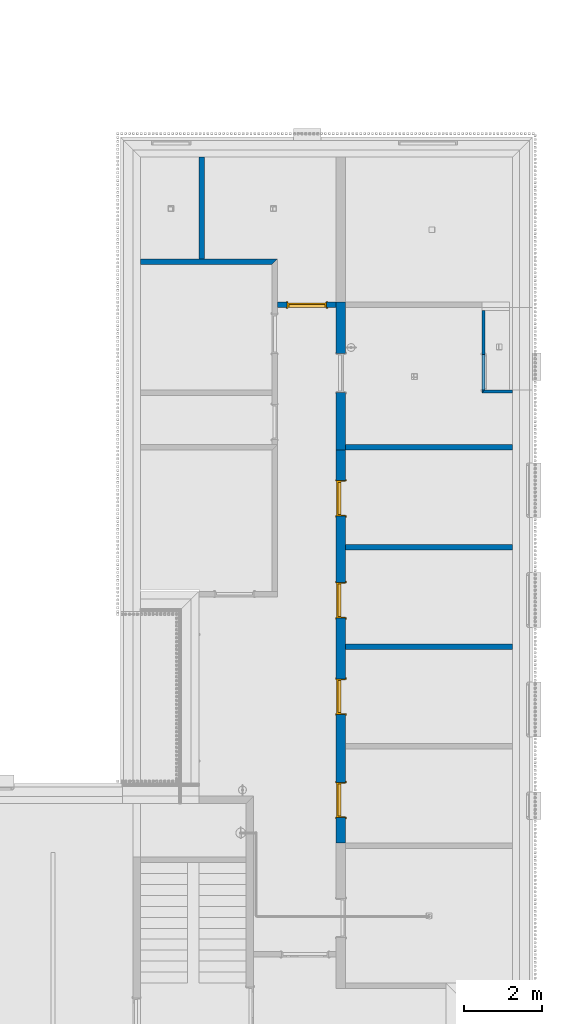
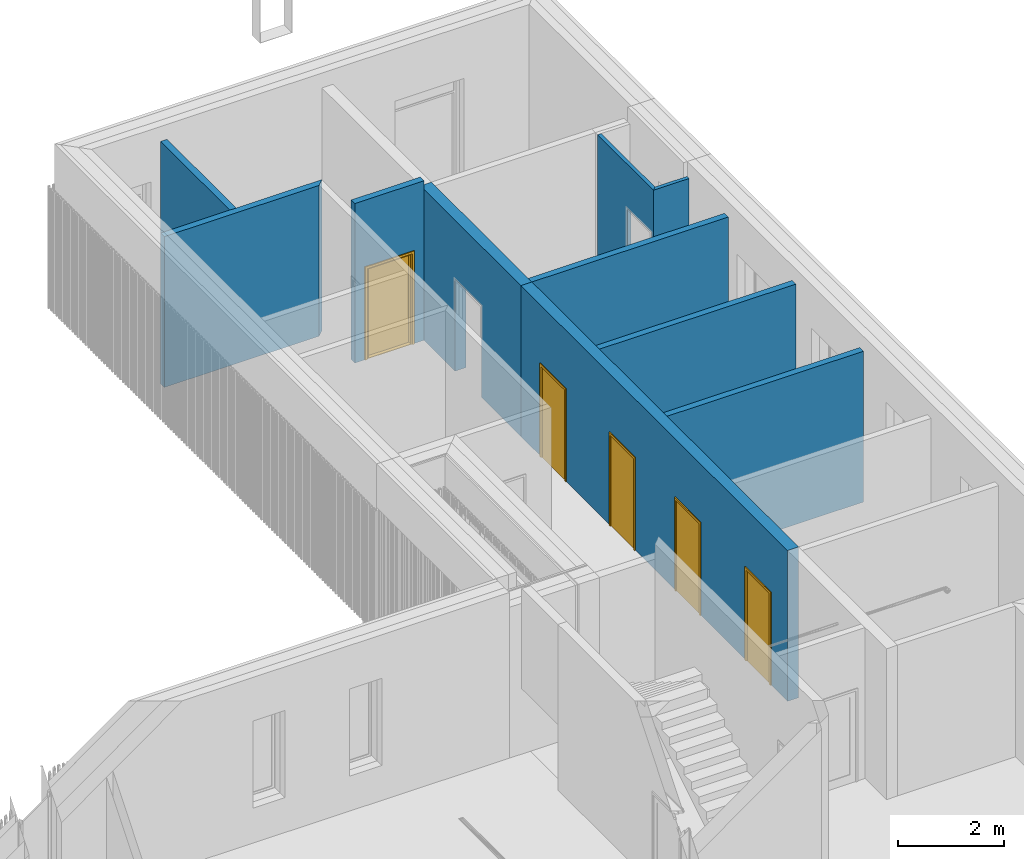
# One storey, part 17 of 112: 10 walls, 5 doors, 7 openings.
"""IFC2X3 building model written with IfcOpenShell, lengths in millimetres."""

from ifc_helpers import new_model, entity, si_unit, converted_unit, derived_unit, money_unit, direction, frame, origin_with_axes, origin_2d_with_axis, place, context, subcontext, project, spatial, polyline, rectangle, outline, extrude, faceted_brep, source, transform, mapped, material, layer, layer_set, layer_usage, type_object, element, fill, save


model = new_model("IFC2X3")

# Units and contexts
model_context = context("Model", 3, precision=0.01, world=origin_with_axes(), true_north=direction((0.0, 1.0)))
body_context = subcontext(model_context, "Body", "Model", "MODEL_VIEW")
ifc_project = project(units=[si_unit("LENGTHUNIT", "METRE", prefix="MILLI"), si_unit("AREAUNIT", "SQUARE_METRE"), si_unit("VOLUMEUNIT", "CUBIC_METRE"), converted_unit("PLANEANGLEUNIT", "DEGREE", entity("IfcPlaneAngleMeasure", 0.0174532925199), si_unit("PLANEANGLEUNIT", "RADIAN"), dimensions=[0, 0, 0, 0, 0, 0, 0]), si_unit("SOLIDANGLEUNIT", "STERADIAN"), money_unit("EUR"), converted_unit("TIMEUNIT", "Year", entity("IfcTimeMeasure", 31556926.0), si_unit("TIMEUNIT", "SECOND"), dimensions=[0, 0, 1, 0, 0, 0, 0]), si_unit("MASSUNIT", "GRAM", prefix="KILO"), si_unit("THERMODYNAMICTEMPERATUREUNIT", "DEGREE_CELSIUS"), si_unit("LUMINOUSINTENSITYUNIT", "LUMEN"), si_unit("ENERGYUNIT", "JOULE", prefix="MEGA"), derived_unit("THERMALCONDUCTANCEUNIT", [(si_unit("POWERUNIT", "WATT"), 1), (si_unit("LENGTHUNIT", "METRE"), -1), (si_unit("THERMODYNAMICTEMPERATUREUNIT", "KELVIN"), -1)]), derived_unit("SPECIFICHEATCAPACITYUNIT", [(si_unit("ENERGYUNIT", "JOULE"), 1), (si_unit("MASSUNIT", "GRAM", prefix="KILO"), -1), (si_unit("THERMODYNAMICTEMPERATUREUNIT", "KELVIN"), -1)]), derived_unit("MASSDENSITYUNIT", [(si_unit("MASSUNIT", "GRAM", prefix="KILO"), 1), (si_unit("VOLUMEUNIT", "CUBIC_METRE"), -1)])], contexts=[model_context])

# Site, building, storey
site_placement = place(None, origin_with_axes())
site = spatial("IfcSite", under=ifc_project, at=site_placement, Name="Politse- ja Piirivalveameti ning Päästeameti ühishoone", CompositionType="ELEMENT")
building_placement = place(site_placement, origin_with_axes())
building = spatial("IfcBuilding", under=site, at=building_placement, Name="Politse- ja Piirivalveameti ning Päästeameti ühishoone", CompositionType="ELEMENT")
storey_placement = place(building_placement, origin_with_axes())
storey = spatial("IfcBuildingStorey", under=building, at=storey_placement, Name="Esimene korrus", CompositionType="ELEMENT", Elevation=0.0)

# Wall, openings, doors
ifc_material_1 = material(Name="KON-05_Betoon Plokk - Konstuktsioon")
ifc_layer_1 = layer(ifc_material_1, 240.0, ventilated="UNKNOWN")
ifc_layer_set_1 = layer_set([ifc_layer_1], Name="SS-04_Sisesein 240")
ifc_layer_usage_1 = layer_usage(ifc_layer_set_1, "AXIS2", "NEGATIVE", 240.0)
wall_type_1 = type_object("IfcWallType", Name="SS-04_Sisesein 240 240", PredefinedType="NOTDEFINED")
wall_1_placement = place(storey_placement, frame((65160.5595507, 30020.0702441, 0.0), z_axis=(0.0, 0.0, 1.0), x_axis=(0.0, -1.0, 0.0)))
wall_1 = element("IfcWallStandardCase", 1, at=wall_1_placement, inside=storey, type_object=wall_type_1, material=ifc_layer_usage_1, Name="SS-04", context=body_context, shape_type="SweptSolid", body=[
    extrude(outline(polyline([(0.0, 0.0), (10020.2611051, 0.0), (10020.2611051, 240.0), (0.0, 240.0), (0.0, 0.0)])), origin_with_axes(), (0.0, 0.0, 1.0), 3460.0),
])
opening_1_placement = place(wall_1_placement, frame((3828.17122243, 0.0, 0.0), z_axis=(0.0, 0.0, 1.0), x_axis=(1.0, 0.0, 0.0)))
opening_1 = element("IfcOpeningElement", 2, at=opening_1_placement, cuts=wall_1, Name="SU-01-1", context=body_context, shape_type="SweptSolid", body=[
    extrude(rectangle(XDim=900.0, YDim=2100.0, at=origin_2d_with_axis()), frame((0.0, 120.0, 1050.0), z_axis=(0.0, -1.0, 0.0), x_axis=(-1.0, 0.0, 0.0)), (0.0, 0.0, -1.0), 360.0),
    extrude(rectangle(XDim=900.0, YDim=2100.0, at=origin_2d_with_axis()), frame((0.0, 120.0, 1050.0), z_axis=(0.0, 1.0, 0.0), x_axis=(-1.0, 0.0, 0.0)), (0.0, 0.0, -1.0), 360.0),
    extrude(rectangle(XDim=974.0, YDim=2137.0, at=origin_2d_with_axis()), frame((0.0, 0.0, 1068.5), z_axis=(0.0, 1.0, 0.0), x_axis=(-1.0, 0.0, 0.0)), (0.0, 0.0, -1.0), 360.0),
    extrude(rectangle(XDim=974.0, YDim=2137.0, at=origin_2d_with_axis()), frame((0.0, 240.0, 1068.5), z_axis=(0.0, -1.0, 0.0), x_axis=(-1.0, 0.0, 0.0)), (0.0, 0.0, -1.0), 360.0),
])
opening_2_placement = place(wall_1_placement, frame((8928.39759414, 0.0, 0.0), z_axis=(0.0, 0.0, 1.0), x_axis=(1.0, 0.0, 0.0)))
opening_2 = element("IfcOpeningElement", 3, at=opening_2_placement, cuts=wall_1, Name="SU-01-1", context=body_context, shape_type="SweptSolid", body=[
    extrude(rectangle(XDim=900.0, YDim=2100.0, at=origin_2d_with_axis()), frame((0.0, 120.0, 1050.0), z_axis=(0.0, -1.0, 0.0), x_axis=(-1.0, 0.0, 0.0)), (0.0, 0.0, -1.0), 360.0),
    extrude(rectangle(XDim=900.0, YDim=2100.0, at=origin_2d_with_axis()), frame((0.0, 120.0, 1050.0), z_axis=(0.0, 1.0, 0.0), x_axis=(-1.0, 0.0, 0.0)), (0.0, 0.0, -1.0), 360.0),
    extrude(rectangle(XDim=974.0, YDim=2137.0, at=origin_2d_with_axis()), frame((0.0, 0.0, 1068.5), z_axis=(0.0, 1.0, 0.0), x_axis=(-1.0, 0.0, 0.0)), (0.0, 0.0, -1.0), 360.0),
    extrude(rectangle(XDim=974.0, YDim=2137.0, at=origin_2d_with_axis()), frame((0.0, 240.0, 1068.5), z_axis=(0.0, -1.0, 0.0), x_axis=(-1.0, 0.0, 0.0)), (0.0, 0.0, -1.0), 360.0),
])
opening_3_placement = place(wall_1_placement, frame((1227.96327572, 0.0, 0.0), z_axis=(0.0, 0.0, 1.0), x_axis=(1.0, 0.0, 0.0)))
opening_3 = element("IfcOpeningElement", 4, at=opening_3_placement, cuts=wall_1, Name="SU-01-1", context=body_context, shape_type="SweptSolid", body=[
    extrude(rectangle(XDim=900.0, YDim=2100.0, at=origin_2d_with_axis()), frame((0.0, 120.0, 1050.0), z_axis=(0.0, -1.0, 0.0), x_axis=(-1.0, 0.0, 0.0)), (0.0, 0.0, -1.0), 360.0),
    extrude(rectangle(XDim=900.0, YDim=2100.0, at=origin_2d_with_axis()), frame((0.0, 120.0, 1050.0), z_axis=(0.0, 1.0, 0.0), x_axis=(-1.0, 0.0, 0.0)), (0.0, 0.0, -1.0), 360.0),
    extrude(rectangle(XDim=974.0, YDim=2137.0, at=origin_2d_with_axis()), frame((0.0, 0.0, 1068.5), z_axis=(0.0, 1.0, 0.0), x_axis=(-1.0, 0.0, 0.0)), (0.0, 0.0, -1.0), 360.0),
    extrude(rectangle(XDim=974.0, YDim=2137.0, at=origin_2d_with_axis()), frame((0.0, 240.0, 1068.5), z_axis=(0.0, -1.0, 0.0), x_axis=(-1.0, 0.0, 0.0)), (0.0, 0.0, -1.0), 360.0),
])
opening_4_placement = place(wall_1_placement, frame((6288.21438563, 0.0, 0.0), z_axis=(0.0, 0.0, 1.0), x_axis=(1.0, 0.0, 0.0)))
opening_4 = element("IfcOpeningElement", 5, at=opening_4_placement, cuts=wall_1, Name="SU-01-1", context=body_context, shape_type="SweptSolid", body=[
    extrude(rectangle(XDim=900.0, YDim=2100.0, at=origin_2d_with_axis()), frame((0.0, 120.0, 1050.0), z_axis=(0.0, -1.0, 0.0), x_axis=(-1.0, 0.0, 0.0)), (0.0, 0.0, -1.0), 360.0),
    extrude(rectangle(XDim=900.0, YDim=2100.0, at=origin_2d_with_axis()), frame((0.0, 120.0, 1050.0), z_axis=(0.0, 1.0, 0.0), x_axis=(-1.0, 0.0, 0.0)), (0.0, 0.0, -1.0), 360.0),
    extrude(rectangle(XDim=974.0, YDim=2137.0, at=origin_2d_with_axis()), frame((0.0, 0.0, 1068.5), z_axis=(0.0, 1.0, 0.0), x_axis=(-1.0, 0.0, 0.0)), (0.0, 0.0, -1.0), 360.0),
    extrude(rectangle(XDim=974.0, YDim=2137.0, at=origin_2d_with_axis()), frame((0.0, 240.0, 1068.5), z_axis=(0.0, -1.0, 0.0), x_axis=(-1.0, 0.0, 0.0)), (0.0, 0.0, -1.0), 360.0),
])
door_style_1 = type_object("IfcDoorStyle", Name="Door 23", ConstructionType="NOTDEFINED", OperationType="SINGLE_SWING_RIGHT", ParameterTakesPrecedence=False, Sizeable=False)
shared_shape_1 = source(origin_with_axes(), body_context, "Body", "Brep", [
    faceted_brep([(410.0, -115.0, 0.0), (410.0, -40.0, 0.0), (410.0, -40.0, 12.0), (410.0, -115.0, 12.0), (-410.0, -115.0, 0.0), (-410.0, -40.0, 0.0), (-422.0, -40.0, 0.0), (422.0, -40.0, 0.0), (422.0, -40.0, 12.0), (-422.0, -40.0, 12.0), (-410.0, -40.0, 12.0), (-410.0, -115.0, 12.0)], [[[0, 1, 2, 3]], [[0, 4, 5, 6, 7, 1]], [[1, 7, 8, 2]], [[3, 2, 8, 9, 10, 11]], [[4, 0, 3, 11]], [[5, 4, 11, 10]], [[6, 5, 10, 9]], [[7, 6, 9, 8]]]),
    faceted_brep([(-450.0, 0.0, 0.0), (-450.0, 5.0, 0.0), (-425.0, 5.0, 0.0), (-425.0, 0.0, 0.0), (-450.0, 0.0, 2100.0), (-450.0, 5.0, 2100.0), (-425.0, 5.0, 2075.0), (-425.0, 0.0, 2075.0)], [[[0, 1, 2, 3]], [[4, 5, 1, 0]], [[1, 5, 6, 2]], [[3, 2, 6, 7]], [[0, 3, 7, 4]], [[7, 6, 5, 4]]]),
    faceted_brep([(450.0, 0.0, 2100.0), (450.0, 5.0, 2100.0), (425.0, 5.0, 2075.0), (425.0, 0.0, 2075.0), (450.0, 0.0, 0.0), (450.0, 5.0, 0.0), (425.0, 5.0, 0.0), (425.0, 0.0, 0.0)], [[[0, 1, 2, 3]], [[4, 5, 1, 0]], [[1, 5, 6, 2]], [[3, 2, 6, 7]], [[0, 3, 7, 4]], [[7, 6, 5, 4]]]),
    faceted_brep([(-425.0, 0.0, 2075.0), (-425.0, 5.0, 2075.0), (425.0, 5.0, 2075.0), (425.0, 0.0, 2075.0), (-450.0, 0.0, 2100.0), (-450.0, 5.0, 2100.0), (450.0, 5.0, 2100.0), (450.0, 0.0, 2100.0)], [[[0, 1, 2, 3]], [[4, 5, 1, 0]], [[1, 5, 6, 2]], [[3, 2, 6, 7]], [[0, 3, 7, 4]], [[7, 6, 5, 4]]]),
    faceted_brep([(-487.0, 24.0, 0.0), (-437.0, 24.0, 0.0), (-437.0, 5.0, 0.0), (-487.0, 5.0, 0.0), (-487.0, 24.0, 2137.0), (-437.0, 24.0, 2087.0), (-437.0, 5.0, 2087.0), (-487.0, 5.0, 2137.0)], [[[0, 1, 2, 3]], [[0, 4, 5, 1]], [[1, 5, 6, 2]], [[3, 2, 6, 7]], [[4, 0, 3, 7]], [[5, 4, 7, 6]]]),
    faceted_brep([(487.0, 24.0, 2137.0), (437.0, 24.0, 2087.0), (437.0, 5.0, 2087.0), (487.0, 5.0, 2137.0), (487.0, 24.0, 0.0), (437.0, 24.0, 0.0), (437.0, 5.0, 0.0), (487.0, 5.0, 0.0)], [[[0, 1, 2, 3]], [[0, 4, 5, 1]], [[1, 5, 6, 2]], [[3, 2, 6, 7]], [[4, 0, 3, 7]], [[5, 4, 7, 6]]]),
    faceted_brep([(-487.0, 24.0, 2137.0), (-437.0, 24.0, 2087.0), (-437.0, 5.0, 2087.0), (-487.0, 5.0, 2137.0), (487.0, 24.0, 2137.0), (437.0, 24.0, 2087.0), (437.0, 5.0, 2087.0), (487.0, 5.0, 2137.0)], [[[0, 1, 2, 3]], [[0, 4, 5, 1]], [[1, 5, 6, 2]], [[3, 2, 6, 7]], [[4, 0, 3, 7]], [[5, 4, 7, 6]]]),
    faceted_brep([(-450.0, -115.0, 0.0), (-425.0, -115.0, 0.0), (-425.0, -235.0, 0.0), (-450.0, -235.0, 0.0), (-450.0, -115.0, 2100.0), (-425.0, -115.0, 2075.0), (-425.0, -235.0, 2075.0), (-450.0, -235.0, 2100.0)], [[[0, 1, 2, 3]], [[0, 4, 5, 1]], [[1, 5, 6, 2]], [[3, 2, 6, 7]], [[4, 0, 3, 7]], [[5, 4, 7, 6]]]),
    faceted_brep([(450.0, -115.0, 2100.0), (425.0, -115.0, 2075.0), (425.0, -235.0, 2075.0), (450.0, -235.0, 2100.0), (450.0, -115.0, 0.0), (425.0, -115.0, 0.0), (425.0, -235.0, 0.0), (450.0, -235.0, 0.0)], [[[0, 1, 2, 3]], [[0, 4, 5, 1]], [[1, 5, 6, 2]], [[3, 2, 6, 7]], [[4, 0, 3, 7]], [[5, 4, 7, 6]]]),
    faceted_brep([(-450.0, -115.0, 2100.0), (-425.0, -115.0, 2075.0), (-425.0, -235.0, 2075.0), (-450.0, -235.0, 2100.0), (450.0, -115.0, 2100.0), (425.0, -115.0, 2075.0), (425.0, -235.0, 2075.0), (450.0, -235.0, 2100.0)], [[[0, 1, 2, 3]], [[0, 4, 5, 1]], [[1, 5, 6, 2]], [[3, 2, 6, 7]], [[4, 0, 3, 7]], [[5, 4, 7, 6]]]),
    faceted_brep([(-487.0, -254.0, 0.0), (-487.0, -235.0, 0.0), (-437.0, -235.0, 0.0), (-437.0, -254.0, 0.0), (-487.0, -254.0, 2137.0), (-487.0, -235.0, 2137.0), (-437.0, -235.0, 2087.0), (-437.0, -254.0, 2087.0)], [[[0, 1, 2, 3]], [[4, 5, 1, 0]], [[1, 5, 6, 2]], [[3, 2, 6, 7]], [[0, 3, 7, 4]], [[7, 6, 5, 4]]]),
    faceted_brep([(487.0, -254.0, 2137.0), (487.0, -235.0, 2137.0), (437.0, -235.0, 2087.0), (437.0, -254.0, 2087.0), (487.0, -254.0, 0.0), (487.0, -235.0, 0.0), (437.0, -235.0, 0.0), (437.0, -254.0, 0.0)], [[[0, 1, 2, 3]], [[4, 5, 1, 0]], [[1, 5, 6, 2]], [[3, 2, 6, 7]], [[0, 3, 7, 4]], [[7, 6, 5, 4]]]),
    faceted_brep([(-487.0, -254.0, 2137.0), (-487.0, -235.0, 2137.0), (-437.0, -235.0, 2087.0), (-437.0, -254.0, 2087.0), (487.0, -254.0, 2137.0), (487.0, -235.0, 2137.0), (437.0, -235.0, 2087.0), (437.0, -254.0, 2087.0)], [[[0, 1, 2, 3]], [[4, 5, 1, 0]], [[1, 5, 6, 2]], [[3, 2, 6, 7]], [[0, 3, 7, 4]], [[7, 6, 5, 4]]]),
    faceted_brep([(-410.0, -40.0, 0.0), (-410.0, -40.0, 2060.0), (-410.0, -115.0, 2060.0), (-410.0, -115.0, 0.0), (-422.0, -40.0, 2060.0), (-422.0, -40.0, 0.0), (-422.0, 0.0, 2060.0), (-450.0, 0.0, 2060.0), (-450.0, -115.0, 2060.0), (-450.0, -115.0, 0.0), (-450.0, 0.0, 0.0), (-422.0, 0.0, 0.0)], [[[0, 1, 2, 3]], [[4, 1, 0, 5]], [[4, 6, 7, 8, 2, 1]], [[3, 2, 8, 9]], [[5, 0, 3, 9, 10, 11]], [[6, 4, 5, 11]], [[6, 11, 10, 7]], [[10, 9, 8, 7]]]),
    faceted_brep([(422.0, -40.0, 2060.0), (410.0, -40.0, 2060.0), (410.0, -115.0, 2060.0), (450.0, -115.0, 2060.0), (450.0, 0.0, 2060.0), (422.0, 0.0, 2060.0), (422.0, -40.0, 0.0), (410.0, -40.0, 0.0), (410.0, -115.0, 0.0), (450.0, -115.0, 0.0), (450.0, 0.0, 0.0), (422.0, 0.0, 0.0)], [[[0, 1, 2, 3, 4, 5]], [[1, 0, 6, 7]], [[1, 7, 8, 2]], [[3, 2, 8, 9]], [[4, 3, 9, 10]], [[11, 5, 4, 10]], [[0, 5, 11, 6]], [[6, 11, 10, 9, 8, 7]]]),
    faceted_brep([(-422.0, 0.0, 2072.0), (-422.0, 0.0, 2060.0), (-450.0, 0.0, 2060.0), (-450.0, 0.0, 2100.0), (450.0, 0.0, 2100.0), (450.0, 0.0, 2060.0), (422.0, 0.0, 2060.0), (422.0, 0.0, 2072.0), (-422.0, -40.0, 2072.0), (-422.0, -40.0, 2060.0), (-410.0, -40.0, 2060.0), (-410.0, -115.0, 2060.0), (-450.0, -115.0, 2060.0), (-450.0, -115.0, 2100.0), (450.0, -115.0, 2100.0), (450.0, -115.0, 2060.0), (422.0, -40.0, 2060.0), (410.0, -115.0, 2060.0), (410.0, -40.0, 2060.0), (422.0, -40.0, 2072.0)], [[[0, 1, 2, 3, 4, 5, 6, 7]], [[1, 0, 8, 9]], [[9, 10, 11, 12, 2, 1]], [[2, 12, 13, 3]], [[3, 13, 14, 4]], [[4, 14, 15, 5]], [[16, 6, 5, 15, 17, 18]], [[7, 6, 16, 19]], [[0, 7, 19, 8]], [[16, 18, 10, 9, 8, 19]], [[10, 18, 17, 11]], [[17, 15, 14, 13, 12, 11]]]),
    faceted_brep([(422.0, 0.0, 0.0), (422.0, -40.0, 0.0), (-422.0, -40.0, 0.0), (-422.0, 0.0, 0.0), (422.0, 0.0, 2072.0), (422.0, -40.0, 2072.0), (-422.0, -40.0, 2072.0), (-422.0, 0.0, 2072.0)], [[[0, 1, 2, 3]], [[4, 5, 1, 0]], [[1, 5, 6, 2]], [[3, 2, 6, 7]], [[0, 3, 7, 4]], [[7, 6, 5, 4]]]),
])
door_1_placement = place(opening_1_placement, frame((450.0, 0.0, 0.0), z_axis=(0.0, 0.0, 1.0), x_axis=(-1.0, 0.0, 0.0)))
door_1 = element("IfcDoor", 6, at=door_1_placement, inside=storey, type_object=door_style_1, Name="SU-01-1", ObjectType="DOOR", OverallHeight=2100.0, OverallWidth=900.0, context=body_context, shape_type="MappedRepresentation", body=[
    mapped(shared_shape_1, transform((450.0, -5.0, 0.0))),
])
fill(opening_1, door_1)
door_2_placement = place(opening_2_placement, frame((450.0, 0.0, 0.0), z_axis=(0.0, 0.0, 1.0), x_axis=(-1.0, 0.0, 0.0)))
door_2 = element("IfcDoor", 7, at=door_2_placement, inside=storey, type_object=door_style_1, Name="SU-01-1", ObjectType="DOOR", OverallHeight=2100.0, OverallWidth=900.0, context=body_context, shape_type="MappedRepresentation", body=[
    mapped(shared_shape_1, transform((450.0, -5.0, 0.0))),
])
fill(opening_2, door_2)
door_3_placement = place(opening_3_placement, frame((450.0, 0.0, 0.0), z_axis=(0.0, 0.0, 1.0), x_axis=(-1.0, 0.0, 0.0)))
door_3 = element("IfcDoor", 8, at=door_3_placement, inside=storey, type_object=door_style_1, Name="SU-01-1", ObjectType="DOOR", OverallHeight=2100.0, OverallWidth=900.0, context=body_context, shape_type="MappedRepresentation", body=[
    mapped(shared_shape_1, transform((450.0, -5.0, 0.0))),
])
fill(opening_3, door_3)
door_4_placement = place(opening_4_placement, frame((450.0, 0.0, 0.0), z_axis=(0.0, 0.0, 1.0), x_axis=(-1.0, 0.0, 0.0)))
door_4 = element("IfcDoor", 9, at=door_4_placement, inside=storey, type_object=door_style_1, Name="SU-01-1", ObjectType="DOOR", OverallHeight=2100.0, OverallWidth=900.0, context=body_context, shape_type="MappedRepresentation", body=[
    mapped(shared_shape_1, transform((450.0, -5.0, 0.0))),
])
fill(opening_4, door_4)

# Wall, opening
ifc_layer_usage_2 = layer_usage(ifc_layer_set_1, "AXIS2", "NEGATIVE", 240.0)
wall_2_placement = place(storey_placement, frame((65160.5595507, 33800.0702441, 0.0), z_axis=(0.0, 0.0, 1.0), x_axis=(0.0, -1.0, 0.0)))
wall_2 = element("IfcWallStandardCase", 10, at=wall_2_placement, inside=storey, type_object=wall_type_1, material=ifc_layer_usage_2, Name="SS-04", context=body_context, shape_type="SweptSolid", body=[
    extrude(outline(polyline([(0.0, 0.0), (3780.0, 0.0), (3780.0, 240.0), (0.0, 240.0), (0.0, 0.0)])), origin_with_axes(), (0.0, 0.0, 1.0), 3460.0),
])
opening_5_placement = place(wall_2_placement, frame((1808.34335883, 0.0, 0.0), z_axis=(0.0, 0.0, 1.0), x_axis=(1.0, 0.0, 0.0)))
element("IfcOpeningElement", 11, at=opening_5_placement, cuts=wall_2, Name="TU-01-8", context=body_context, shape_type="SweptSolid", body=[
    extrude(rectangle(XDim=1000.0, YDim=2100.0, at=origin_2d_with_axis()), frame((0.0, 180.0, 1050.0), z_axis=(0.0, -1.0, 0.0), x_axis=(-1.0, 0.0, 0.0)), (0.0, 0.0, 1.0), 420.0),
    extrude(rectangle(XDim=1000.0, YDim=2100.0, at=origin_2d_with_axis()), frame((0.0, 180.0, 1050.0), z_axis=(0.0, 1.0, 0.0), x_axis=(-1.0, 0.0, 0.0)), (0.0, 0.0, 1.0), 300.0),
    extrude(rectangle(XDim=1074.0, YDim=2137.0, at=origin_2d_with_axis()), frame((0.0, 0.0, 1068.5), z_axis=(0.0, -1.0, 0.0), x_axis=(-1.0, 0.0, 0.0)), (0.0, 0.0, 1.0), 300.0),
    extrude(rectangle(XDim=1074.0, YDim=2137.0, at=origin_2d_with_axis()), frame((0.0, 240.0, 1068.5), z_axis=(0.0, 1.0, 0.0), x_axis=(-1.0, 0.0, 0.0)), (0.0, 0.0, 1.0), 300.0),
])

# Walls
ifc_layer_2 = layer(ifc_material_1, 140.0, ventilated="UNKNOWN")
ifc_layer_set_2 = layer_set([ifc_layer_2], Name="SS-02_Sisesein 140")
ifc_layer_usage_3 = layer_usage(ifc_layer_set_2, "AXIS2", "NEGATIVE", 140.0)
wall_type_2 = type_object("IfcWallType", Name="SS-02_Sisesein 140 140", PredefinedType="NOTDEFINED")
wall_3_placement = place(storey_placement, frame((69660.5664257, 25080.0702441, 0.0), z_axis=(0.0, 0.0, 1.0), x_axis=(-1.0, 0.0, 0.0)))
element("IfcWallStandardCase", 12, at=wall_3_placement, inside=storey, type_object=wall_type_2, material=ifc_layer_usage_3, Name="SS-02", context=body_context, shape_type="SweptSolid", body=[
    extrude(outline(polyline([(0.0, 0.0), (4260.006875, 0.0), (4260.006875, 140.0), (0.0, 140.0), (0.0, 0.0)])), origin_with_axes(), (0.0, 0.0, 1.0), 3460.0),
])
ifc_layer_usage_4 = layer_usage(ifc_layer_set_2, "AXIS2", "NEGATIVE", 140.0)
wall_4_placement = place(storey_placement, frame((69660.5664257, 27620.0702441, 0.0), z_axis=(0.0, 0.0, 1.0), x_axis=(-1.0, 0.0, 0.0)))
element("IfcWallStandardCase", 13, at=wall_4_placement, inside=storey, type_object=wall_type_2, material=ifc_layer_usage_4, Name="SS-02", context=body_context, shape_type="SweptSolid", body=[
    extrude(outline(polyline([(0.0, 0.0), (4260.006875, 0.0), (4260.006875, 140.0), (0.0, 140.0), (0.0, 0.0)])), origin_with_axes(), (0.0, 0.0, 1.0), 3460.0),
])
ifc_layer_usage_5 = layer_usage(ifc_layer_set_2, "AXIS2", "NEGATIVE", 140.0)
wall_5_placement = place(storey_placement, frame((69660.5664257, 30160.0702441, 0.0), z_axis=(0.0, 0.0, 1.0), x_axis=(-1.0, 0.0, 0.0)))
element("IfcWallStandardCase", 14, at=wall_5_placement, inside=storey, type_object=wall_type_2, material=ifc_layer_usage_5, Name="SS-02", context=body_context, shape_type="SweptSolid", body=[
    extrude(outline(polyline([(0.0, 0.0), (4260.006875, 0.0), (4260.006875, 140.0), (0.0, 140.0), (0.0, 0.0)])), origin_with_axes(), (0.0, 0.0, 1.0), 3460.0),
])
ifc_layer_usage_6 = layer_usage(ifc_layer_set_2, "AXIS2", "POSITIVE", -140.0)
wall_6_placement = place(storey_placement, frame((60160.5519118, 34899.7347718, 0.0), z_axis=(0.0, 0.0, 1.0), x_axis=(1.0, 0.0, 0.0)))
element("IfcWallStandardCase", 15, at=wall_6_placement, inside=storey, type_object=wall_type_2, material=ifc_layer_usage_6, Name="SS-02", context=body_context, shape_type="SweptSolid", body=[
    extrude(outline(polyline([(0.0, -140.0), (3360.00534722, -140.0), (3500.00534722, 0.0), (0.0, 0.0), (0.0, -140.0)])), origin_with_axes(), (0.0, 0.0, 1.0), 3460.0),
])
ifc_layer_usage_7 = layer_usage(ifc_layer_set_2, "AXIS2", "POSITIVE", -140.0)
wall_7_placement = place(storey_placement, frame((61660.5519118, 34899.7347718, 0.0), z_axis=(0.0, 0.0, 1.0), x_axis=(0.0, 1.0, 0.0)))
element("IfcWallStandardCase", 16, at=wall_7_placement, inside=storey, type_object=wall_type_2, material=ifc_layer_usage_7, Name="SS-02", context=body_context, shape_type="SweptSolid", body=[
    extrude(outline(polyline([(0.0, -140.0), (2600.21736002, -140.0), (2600.21736002, 0.0), (0.0, 0.0), (0.0, -140.0)])), origin_with_axes(), (0.0, 0.0, 1.0), 3460.0),
])

# Wall, opening, door
ifc_layer_usage_8 = layer_usage(ifc_layer_set_2, "AXIS2", "NEGATIVE", 140.0)
wall_8_placement = place(storey_placement, frame((65160.5595507, 33800.0702441, 0.0), z_axis=(0.0, 0.0, 1.0), x_axis=(-1.0, 0.0, 0.0)))
wall_8 = element("IfcWallStandardCase", 17, at=wall_8_placement, inside=storey, type_object=wall_type_2, material=ifc_layer_usage_8, Name="SS-02", context=body_context, shape_type="SweptSolid", body=[
    extrude(outline(polyline([(0.0, 0.0), (1500.00229167, 0.0), (1500.00229167, 140.0), (0.0, 140.0), (0.0, 0.0)])), origin_with_axes(), (0.0, 0.0, 1.0), 3660.0),
])
opening_6_placement = place(wall_8_placement, frame((749.539951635, 0.0, 0.0), z_axis=(0.0, 0.0, 1.0), x_axis=(1.0, 0.0, 0.0)))
opening_6 = element("IfcOpeningElement", 18, at=opening_6_placement, cuts=wall_8, Name="SU-01-2", context=body_context, shape_type="SweptSolid", body=[
    extrude(rectangle(XDim=1000.0, YDim=2100.0, at=origin_2d_with_axis()), frame((0.0, -140.0, 1050.0), z_axis=(0.0, 1.0, 0.0), x_axis=(-1.0, 0.0, 0.0)), (0.0, 0.0, 1.0), 420.0),
    extrude(rectangle(XDim=1074.0, YDim=2137.0, at=origin_2d_with_axis()), frame((0.0, 0.0, 1068.5), z_axis=(0.0, 1.0, 0.0), x_axis=(-1.0, 0.0, 0.0)), (0.0, 0.0, -1.0), 140.0),
    extrude(rectangle(XDim=1074.0, YDim=2137.0, at=origin_2d_with_axis()), frame((0.0, 140.0, 1068.5), z_axis=(0.0, -1.0, 0.0), x_axis=(-1.0, 0.0, 0.0)), (0.0, 0.0, -1.0), 140.0),
])
door_style_2 = type_object("IfcDoorStyle", Name="Door 23", ConstructionType="NOTDEFINED", OperationType="SINGLE_SWING_RIGHT", ParameterTakesPrecedence=False, Sizeable=False)
shared_shape_2 = source(origin_with_axes(), body_context, "Body", "Brep", [
    faceted_brep([(460.0, -115.0, 0.0), (460.0, -40.0, 0.0), (460.0, -40.0, 12.0), (460.0, -115.0, 12.0), (-460.0, -115.0, 0.0), (-460.0, -40.0, 0.0), (-472.0, -40.0, 0.0), (472.0, -40.0, 0.0), (472.0, -40.0, 12.0), (-472.0, -40.0, 12.0), (-460.0, -40.0, 12.0), (-460.0, -115.0, 12.0)], [[[0, 1, 2, 3]], [[0, 4, 5, 6, 7, 1]], [[1, 7, 8, 2]], [[3, 2, 8, 9, 10, 11]], [[4, 0, 3, 11]], [[5, 4, 11, 10]], [[6, 5, 10, 9]], [[7, 6, 9, 8]]]),
    faceted_brep([(-500.0, 0.0, 0.0), (-500.0, 25.0, 0.0), (-475.0, 25.0, 0.0), (-475.0, 0.0, 0.0), (-500.0, 0.0, 2100.0), (-500.0, 25.0, 2100.0), (-475.0, 25.0, 2075.0), (-475.0, 0.0, 2075.0)], [[[0, 1, 2, 3]], [[4, 5, 1, 0]], [[1, 5, 6, 2]], [[3, 2, 6, 7]], [[0, 3, 7, 4]], [[7, 6, 5, 4]]]),
    faceted_brep([(500.0, 0.0, 2100.0), (500.0, 25.0, 2100.0), (475.0, 25.0, 2075.0), (475.0, 0.0, 2075.0), (500.0, 0.0, 0.0), (500.0, 25.0, 0.0), (475.0, 25.0, 0.0), (475.0, 0.0, 0.0)], [[[0, 1, 2, 3]], [[4, 5, 1, 0]], [[1, 5, 6, 2]], [[3, 2, 6, 7]], [[0, 3, 7, 4]], [[7, 6, 5, 4]]]),
    faceted_brep([(-475.0, 0.0, 2075.0), (-475.0, 25.0, 2075.0), (475.0, 25.0, 2075.0), (475.0, 0.0, 2075.0), (-500.0, 0.0, 2100.0), (-500.0, 25.0, 2100.0), (500.0, 25.0, 2100.0), (500.0, 0.0, 2100.0)], [[[0, 1, 2, 3]], [[4, 5, 1, 0]], [[1, 5, 6, 2]], [[3, 2, 6, 7]], [[0, 3, 7, 4]], [[7, 6, 5, 4]]]),
    faceted_brep([(-537.0, 44.0, 0.0), (-487.0, 44.0, 0.0), (-487.0, 25.0, 0.0), (-537.0, 25.0, 0.0), (-537.0, 44.0, 2137.0), (-487.0, 44.0, 2087.0), (-487.0, 25.0, 2087.0), (-537.0, 25.0, 2137.0)], [[[0, 1, 2, 3]], [[0, 4, 5, 1]], [[1, 5, 6, 2]], [[3, 2, 6, 7]], [[4, 0, 3, 7]], [[5, 4, 7, 6]]]),
    faceted_brep([(537.0, 44.0, 2137.0), (487.0, 44.0, 2087.0), (487.0, 25.0, 2087.0), (537.0, 25.0, 2137.0), (537.0, 44.0, 0.0), (487.0, 44.0, 0.0), (487.0, 25.0, 0.0), (537.0, 25.0, 0.0)], [[[0, 1, 2, 3]], [[0, 4, 5, 1]], [[1, 5, 6, 2]], [[3, 2, 6, 7]], [[4, 0, 3, 7]], [[5, 4, 7, 6]]]),
    faceted_brep([(-537.0, 44.0, 2137.0), (-487.0, 44.0, 2087.0), (-487.0, 25.0, 2087.0), (-537.0, 25.0, 2137.0), (537.0, 44.0, 2137.0), (487.0, 44.0, 2087.0), (487.0, 25.0, 2087.0), (537.0, 25.0, 2137.0)], [[[0, 1, 2, 3]], [[0, 4, 5, 1]], [[1, 5, 6, 2]], [[3, 2, 6, 7]], [[4, 0, 3, 7]], [[5, 4, 7, 6]]]),
    faceted_brep([(-537.0, -134.0, 0.0), (-537.0, -115.0, 0.0), (-487.0, -115.0, 0.0), (-487.0, -134.0, 0.0), (-537.0, -134.0, 2137.0), (-537.0, -115.0, 2137.0), (-487.0, -115.0, 2087.0), (-487.0, -134.0, 2087.0)], [[[0, 1, 2, 3]], [[4, 5, 1, 0]], [[1, 5, 6, 2]], [[3, 2, 6, 7]], [[0, 3, 7, 4]], [[7, 6, 5, 4]]]),
    faceted_brep([(537.0, -134.0, 2137.0), (537.0, -115.0, 2137.0), (487.0, -115.0, 2087.0), (487.0, -134.0, 2087.0), (537.0, -134.0, 0.0), (537.0, -115.0, 0.0), (487.0, -115.0, 0.0), (487.0, -134.0, 0.0)], [[[0, 1, 2, 3]], [[4, 5, 1, 0]], [[1, 5, 6, 2]], [[3, 2, 6, 7]], [[0, 3, 7, 4]], [[7, 6, 5, 4]]]),
    faceted_brep([(-537.0, -134.0, 2137.0), (-537.0, -115.0, 2137.0), (-487.0, -115.0, 2087.0), (-487.0, -134.0, 2087.0), (537.0, -134.0, 2137.0), (537.0, -115.0, 2137.0), (487.0, -115.0, 2087.0), (487.0, -134.0, 2087.0)], [[[0, 1, 2, 3]], [[4, 5, 1, 0]], [[1, 5, 6, 2]], [[3, 2, 6, 7]], [[0, 3, 7, 4]], [[7, 6, 5, 4]]]),
    faceted_brep([(-460.0, -40.0, 0.0), (-460.0, -40.0, 2060.0), (-460.0, -115.0, 2060.0), (-460.0, -115.0, 0.0), (-472.0, -40.0, 2060.0), (-472.0, -40.0, 0.0), (-472.0, 0.0, 2060.0), (-500.0, 0.0, 2060.0), (-500.0, -115.0, 2060.0), (-500.0, -115.0, 0.0), (-500.0, 0.0, 0.0), (-472.0, 0.0, 0.0)], [[[0, 1, 2, 3]], [[4, 1, 0, 5]], [[4, 6, 7, 8, 2, 1]], [[3, 2, 8, 9]], [[5, 0, 3, 9, 10, 11]], [[6, 4, 5, 11]], [[6, 11, 10, 7]], [[10, 9, 8, 7]]]),
    faceted_brep([(472.0, -40.0, 2060.0), (460.0, -40.0, 2060.0), (460.0, -115.0, 2060.0), (500.0, -115.0, 2060.0), (500.0, 0.0, 2060.0), (472.0, 0.0, 2060.0), (472.0, -40.0, 0.0), (460.0, -40.0, 0.0), (460.0, -115.0, 0.0), (500.0, -115.0, 0.0), (500.0, 0.0, 0.0), (472.0, 0.0, 0.0)], [[[0, 1, 2, 3, 4, 5]], [[1, 0, 6, 7]], [[1, 7, 8, 2]], [[3, 2, 8, 9]], [[4, 3, 9, 10]], [[11, 5, 4, 10]], [[0, 5, 11, 6]], [[6, 11, 10, 9, 8, 7]]]),
    faceted_brep([(-472.0, 0.0, 2072.0), (-472.0, 0.0, 2060.0), (-500.0, 0.0, 2060.0), (-500.0, 0.0, 2100.0), (500.0, 0.0, 2100.0), (500.0, 0.0, 2060.0), (472.0, 0.0, 2060.0), (472.0, 0.0, 2072.0), (-472.0, -40.0, 2072.0), (-472.0, -40.0, 2060.0), (-460.0, -40.0, 2060.0), (-460.0, -115.0, 2060.0), (-500.0, -115.0, 2060.0), (-500.0, -115.0, 2100.0), (500.0, -115.0, 2100.0), (500.0, -115.0, 2060.0), (472.0, -40.0, 2060.0), (460.0, -115.0, 2060.0), (460.0, -40.0, 2060.0), (472.0, -40.0, 2072.0)], [[[0, 1, 2, 3, 4, 5, 6, 7]], [[1, 0, 8, 9]], [[9, 10, 11, 12, 2, 1]], [[2, 12, 13, 3]], [[3, 13, 14, 4]], [[4, 14, 15, 5]], [[16, 6, 5, 15, 17, 18]], [[7, 6, 16, 19]], [[0, 7, 19, 8]], [[16, 18, 10, 9, 8, 19]], [[10, 18, 17, 11]], [[17, 15, 14, 13, 12, 11]]]),
    faceted_brep([(472.0, 0.0, 0.0), (472.0, -40.0, 0.0), (-472.0, -40.0, 0.0), (-472.0, 0.0, 0.0), (472.0, 0.0, 2072.0), (472.0, -40.0, 2072.0), (-472.0, -40.0, 2072.0), (-472.0, 0.0, 2072.0)], [[[0, 1, 2, 3]], [[4, 5, 1, 0]], [[1, 5, 6, 2]], [[3, 2, 6, 7]], [[0, 3, 7, 4]], [[7, 6, 5, 4]]]),
])
door_5_placement = place(opening_6_placement, frame((500.0, 0.0, 0.0), z_axis=(0.0, 0.0, 1.0), x_axis=(-1.0, 0.0, 0.0)))
door_5 = element("IfcDoor", 19, at=door_5_placement, inside=storey, type_object=door_style_2, Name="SU-01-2", ObjectType="DOOR", OverallHeight=2100.0, OverallWidth=1000.0, context=body_context, shape_type="MappedRepresentation", body=[
    mapped(shared_shape_2, transform((500.0, -25.0, 0.0))),
])
fill(opening_6, door_5)

# Wall, opening
ifc_material_2 = material(Name="SOJ-02_Soojustus - Fiiber Kõva")
ifc_layer_3 = layer(ifc_material_2, 80.0, ventilated="UNKNOWN")
ifc_layer_set_3 = layer_set([ifc_layer_3], Name="SS-10_Sisesein SW-paneel 80")
ifc_layer_usage_9 = layer_usage(ifc_layer_set_3, "AXIS2", "NEGATIVE", 0.0)
wall_type_3 = type_object("IfcWallType", Name="SS-10_Sisesein SW-paneel 80 80", PredefinedType="NOTDEFINED")
wall_9_placement = place(storey_placement, frame((68960.4231925, 33580.0702441, 0.0), z_axis=(0.0, 0.0, 1.0), x_axis=(0.0, -1.0, 0.0)))
wall_9 = element("IfcWallStandardCase", 20, at=wall_9_placement, inside=storey, type_object=wall_type_3, material=ifc_layer_usage_9, Name="SS-10", context=body_context, shape_type="SweptSolid", body=[
    extrude(outline(polyline([(0.0, -80.0), (2099.87163543, -80.0), (2019.87163543, 0.0), (0.0, 0.0), (0.0, -80.0)])), origin_with_axes(), (0.0, 0.0, 1.0), 3460.0),
])
opening_7_placement = place(wall_9_placement, frame((1569.87163543, 0.0, 347.0), z_axis=(0.0, 0.0, 1.0), x_axis=(1.0, 0.0, 0.0)))
element("IfcOpeningElement", 21, at=opening_7_placement, cuts=wall_9, Name="SU-01-7", context=body_context, shape_type="SweptSolid", body=[
    extrude(rectangle(XDim=900.0, YDim=2100.0, at=origin_2d_with_axis()), frame((0.0, 80.0, 1050.0), z_axis=(0.0, 1.0, 0.0), x_axis=(1.0, 0.0, 0.0)), (0.0, 0.0, -1.0), 240.0),
    extrude(rectangle(XDim=974.0, YDim=2137.0, at=origin_2d_with_axis()), frame((0.0, 0.0, 1068.5), z_axis=(0.0, 1.0, 0.0), x_axis=(1.0, 0.0, 0.0)), (0.0, 0.0, 1.0), 80.0),
    extrude(rectangle(XDim=974.0, YDim=2137.0, at=origin_2d_with_axis()), frame((0.0, -80.0, 1068.5), z_axis=(0.0, -1.0, 0.0), x_axis=(1.0, 0.0, 0.0)), (0.0, 0.0, 1.0), 80.0),
])

# Wall
ifc_layer_usage_10 = layer_usage(ifc_layer_set_3, "AXIS2", "NEGATIVE", 0.0)
wall_10_placement = place(storey_placement, frame((68960.4231925, 31560.1986087, 0.0), z_axis=(0.0, 0.0, 1.0), x_axis=(1.0, 0.0, 0.0)))
element("IfcWallStandardCase", 22, at=wall_10_placement, inside=storey, type_object=wall_type_3, material=ifc_layer_usage_10, Name="SS-10", context=body_context, shape_type="SweptSolid", body=[
    extrude(outline(polyline([(-80.0, -80.0), (695.143233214, -80.0), (695.143233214, 0.0), (0.0, 0.0), (-80.0, -80.0)])), origin_with_axes(), (0.0, 0.0, 1.0), 3460.0),
])

save(model, "model.ifc")
